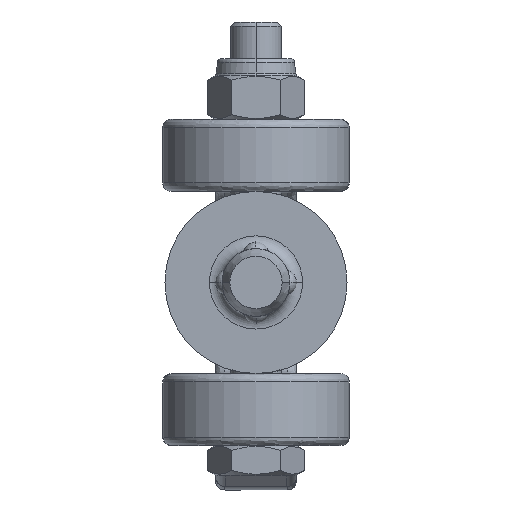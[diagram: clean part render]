
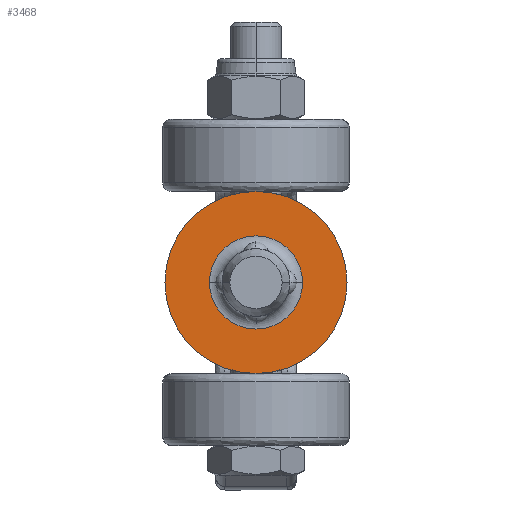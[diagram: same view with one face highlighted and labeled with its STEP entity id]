
A CAD part, front view. The second image highlights one B-rep face of the part: STEP entity #3468.
In plain terms, the highlighted planar face has unit normal (0, -1, 0) as drawn and (-1, 0, 0) by its records, which use the part's own axes.
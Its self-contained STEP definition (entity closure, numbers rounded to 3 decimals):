
#24 = CARTESIAN_POINT ( 'NONE',  ( 0., -5.5, 0. ) ) ;
#272 = ORIENTED_EDGE ( 'NONE', *, *, #7207, .F. ) ;
#375 = CIRCLE ( 'NONE', #2904, 10.75 ) ;
#1212 = CARTESIAN_POINT ( 'NONE',  ( 0., 0., 0. ) ) ;
#1796 = CARTESIAN_POINT ( 'NONE',  ( 0., 0., 10.75 ) ) ;
#1823 = CARTESIAN_POINT ( 'NONE',  ( 0., 0., 0. ) ) ;
#2379 = ORIENTED_EDGE ( 'NONE', *, *, #9506, .F. ) ;
#2390 = DIRECTION ( 'NONE',  ( 0., 0., -1. ) ) ;
#2566 = DIRECTION ( 'NONE',  ( 1., 0., 0. ) ) ;
#2843 = CARTESIAN_POINT ( 'NONE',  ( 0., 0., 0. ) ) ;
#2904 = AXIS2_PLACEMENT_3D ( 'NONE', #1823, #2566, #4805 ) ;
#3083 = AXIS2_PLACEMENT_3D ( 'NONE', #8521, #4722, #2390 ) ;
#3313 = EDGE_LOOP ( 'NONE', ( #2379, #5358 ) ) ;
#3468 = ADVANCED_FACE ( 'NONE', ( #5477, #8613 ), #9208, .F. ) ;
#3471 = ORIENTED_EDGE ( 'NONE', *, *, #9602, .F. ) ;
#3757 = DIRECTION ( 'NONE',  ( 0., -1., 0. ) ) ;
#4037 = VERTEX_POINT ( 'NONE', #24 ) ;
#4452 = VERTEX_POINT ( 'NONE', #1796 ) ;
#4722 = DIRECTION ( 'NONE',  ( 1., 0., 0. ) ) ;
#4805 = DIRECTION ( 'NONE',  ( 0., 0., 1. ) ) ;
#5139 = CARTESIAN_POINT ( 'NONE',  ( 0., 5.5, 0. ) ) ;
#5358 = ORIENTED_EDGE ( 'NONE', *, *, #6559, .F. ) ;
#5477 = FACE_OUTER_BOUND ( 'NONE', #3313, .T. ) ;
#5852 = CARTESIAN_POINT ( 'NONE',  ( 0., 0., 0. ) ) ;
#5857 = VERTEX_POINT ( 'NONE', #9807 ) ;
#5874 = DIRECTION ( 'NONE',  ( -1., 0., 0. ) ) ;
#5971 = CIRCLE ( 'NONE', #6136, 5.5 ) ;
#5997 = AXIS2_PLACEMENT_3D ( 'NONE', #1212, #5874, #6474 ) ;
#6024 = CIRCLE ( 'NONE', #5997, 5.5 ) ;
#6136 = AXIS2_PLACEMENT_3D ( 'NONE', #5852, #8249, #3757 ) ;
#6474 = DIRECTION ( 'NONE',  ( 0., -1., 0. ) ) ;
#6501 = EDGE_LOOP ( 'NONE', ( #3471, #272 ) ) ;
#6559 = EDGE_CURVE ( 'NONE', #5857, #4452, #375, .T. ) ;
#6658 = VERTEX_POINT ( 'NONE', #5139 ) ;
#7207 = EDGE_CURVE ( 'NONE', #6658, #4037, #5971, .T. ) ;
#7284 = AXIS2_PLACEMENT_3D ( 'NONE', #2843, #8830, #8178 ) ;
#8178 = DIRECTION ( 'NONE',  ( 0., 0., 1. ) ) ;
#8249 = DIRECTION ( 'NONE',  ( -1., 0., 0. ) ) ;
#8521 = CARTESIAN_POINT ( 'NONE',  ( 0., 6.5, 0. ) ) ;
#8560 = CIRCLE ( 'NONE', #7284, 10.75 ) ;
#8613 = FACE_BOUND ( 'NONE', #6501, .T. ) ;
#8830 = DIRECTION ( 'NONE',  ( 1., 0., 0. ) ) ;
#9208 = PLANE ( 'NONE',  #3083 ) ;
#9506 = EDGE_CURVE ( 'NONE', #4452, #5857, #8560, .T. ) ;
#9602 = EDGE_CURVE ( 'NONE', #4037, #6658, #6024, .T. ) ;
#9807 = CARTESIAN_POINT ( 'NONE',  ( 0., 0., -10.75 ) ) ;
